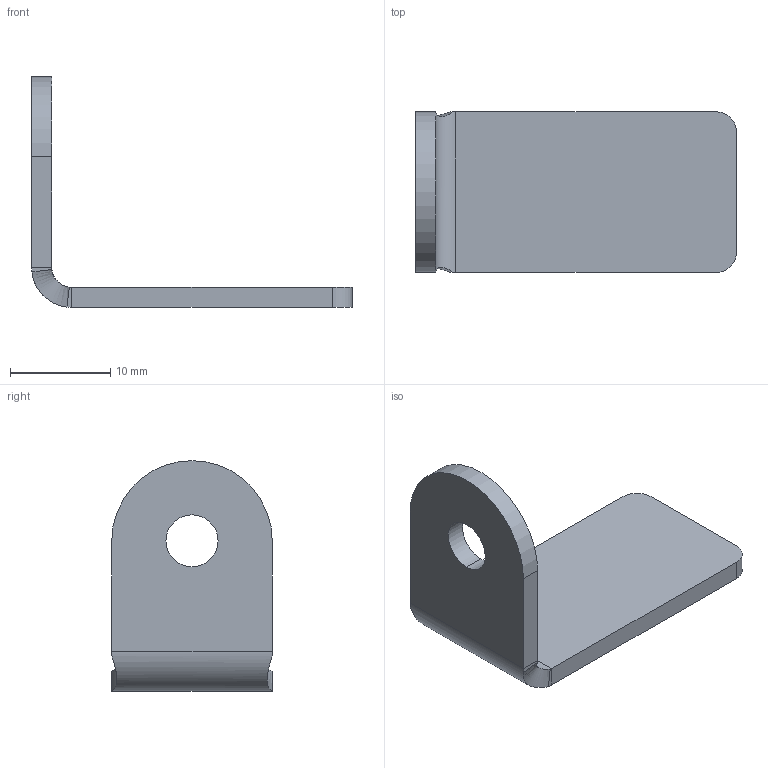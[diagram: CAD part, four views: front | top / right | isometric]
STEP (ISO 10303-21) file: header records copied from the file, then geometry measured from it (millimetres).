
FILE_DESCRIPTION (( 'STEP AP203' ), '1' );
FILE_NAME ('Wiberger-gn479-1-16.step', '2012-09-19T06:42:54', ( 'Magnus' ), ( 'Wiberger' ), 'SwSTEP 2.0', 'SolidWorks 2011', '' );
FILE_SCHEMA (( 'CONFIG_CONTROL_DESIGN' ));
Length unit declared in the file: millimetre
Products named in the file (1): Wiberger-gn479-1-16
Bounding box: 32 x 16 x 23 mm (x, y, z)
Volume: 1548.6 mm3; surface area: 1835.6 mm2
Topology: 1 solids, 1 shells, 22 faces, 52 edges, 32 vertices
Faces by surface type: plane 13, cylinder 7, bspline 2
Entity records: 861 total; most frequent: CARTESIAN_POINT 279, DIRECTION 104, ORIENTED_EDGE 104, EDGE_CURVE 52, AXIS2_PLACEMENT_3D 39, VERTEX_POINT 32, VECTOR 26, LINE 26
